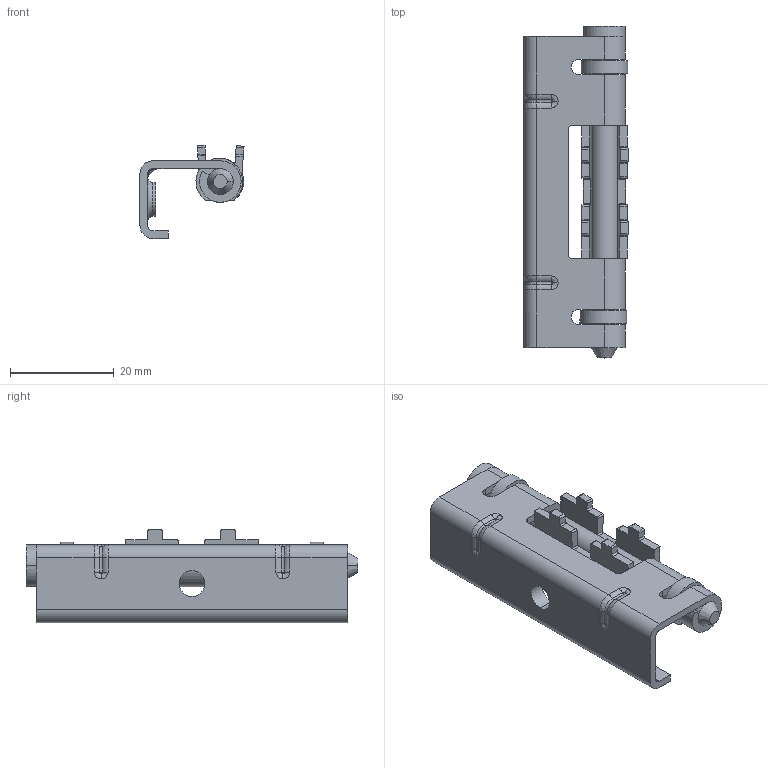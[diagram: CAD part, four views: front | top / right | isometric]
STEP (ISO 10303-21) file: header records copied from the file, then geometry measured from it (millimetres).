
FILE_DESCRIPTION(/* description */ (''),/* implementation_level */ '2;1');
FILE_NAME(/* name */ 'JL050-1',/* time_stamp */ '2025-05-24T11:24:52+08:00',/* author */ (''),/* organization */ (''),/* preprocessor_version */ 'ST-DEVELOPER v19.2',/* originating_system */ 'Rhino 8.5',/* authorisation */ '');
FILE_SCHEMA (('CONFIG_CONTROL_DESIGN'));
Length unit declared in the file: millimetre
Products named in the file (1): Document
Bounding box: 20.06 x 64 x 17.97 mm (x, y, z)
Volume: 5432.4 mm3; surface area: 7514.6 mm2
Topology: 5 solids, 5 shells, 184 faces, 464 edges, 294 vertices
Faces by surface type: cylinder 82, plane 62, bspline 40
Entity records: 7555 total; most frequent: CARTESIAN_POINT 3969, ORIENTED_EDGE 928, EDGE_CURVE 464, DIRECTION 381, VERTEX_POINT 294, AXIS2_PLACEMENT_3D 261, B_SPLINE_CURVE_WITH_KNOTS 223, EDGE_LOOP 190
